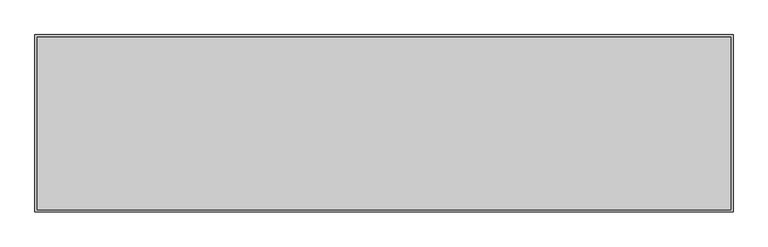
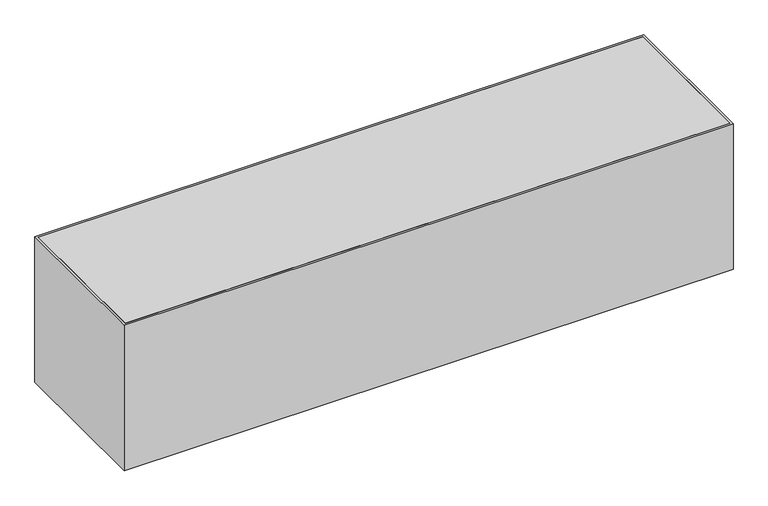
"""IFC4 building model written with IfcOpenShell, lengths in millimetres: proxy geometry, 常规模型 3 : 常规模型 3."""

from ifc_helpers import new_model, si_unit, frame, origin, origin_with_axes, place, context, project, spatial, polyline, outline, extrude, source, transform, mapped, element, save


def generic_models_272d0646(model_context):
    return source(origin(), model_context, "Body", "SweptSolid", [
        extrude(outline(polyline([(15677.3365335, -1337.464179), (15677.3365335, -2213.464179), (12161.3365335, -2213.464179), (12161.3365335, -1337.464179), (15677.3365335, -1337.464179)])), frame((0.0, 0.0, 885.0), z_axis=(0.0, 0.0, 1.0), x_axis=(1.0, 0.0, 0.0)), (0.0, 0.0, 1.0), 10.5938617),
        extrude(outline(polyline([(15689.3365335, -2225.464179), (12149.3365335, -2225.464179), (12149.3365335, -1325.464179), (15689.3365335, -1325.464179), (15689.3365335, -2225.464179)]), holes=[polyline([(15677.3365335, -1337.464179), (12161.3365335, -1337.464179), (12161.3365335, -2213.464179), (15677.3365335, -2213.464179), (15677.3365335, -1337.464179)])]), origin_with_axes(), (0.0, 0.0, 1.0), 895.5938617),
    ])


if __name__ == "__main__":
    model = new_model("IFC4")
    model_context = context("Model", 3, world=origin())
    ifc_project = project(units=[si_unit("LENGTHUNIT", "METRE", prefix="MILLI")], contexts=[model_context])
    site = spatial("IfcSite", under=ifc_project)
    building = spatial("IfcBuilding", under=site)
    placement = place(None, origin())
    generic_models_shape = generic_models_272d0646(model_context)
    element("IfcBuildingElementProxy", 1, Name="常规模型 3 : 常规模型 3", ObjectType="常规模型 3 : 常规模型 3", at=placement, inside=building, context=model_context, shape_type="MappedRepresentation", body=[
        mapped(generic_models_shape, transform((0.0, 0.0, 0.0), x_axis=(1.0, 0.0, 0.0), y_axis=(0.0, 1.0, 0.0), z_axis=(0.0, 0.0, 1.0))),
    ])
    save(model, "model.ifc")
